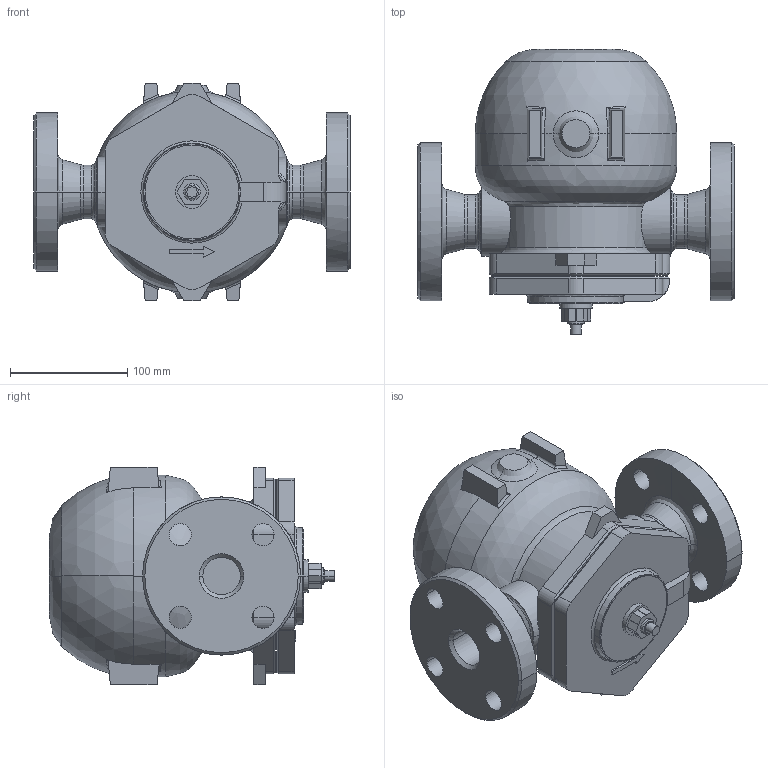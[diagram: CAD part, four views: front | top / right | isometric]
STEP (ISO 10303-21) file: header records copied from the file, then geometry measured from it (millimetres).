
FILE_DESCRIPTION( (''), '2;1');
FILE_NAME ('PC1027.14300.TSF-11F 32A(JIS 10K,20K)_4650.stp','2025-07-30T18:19:59',(''),(''),'spGate 20.6.3 (****-****-****-****)','','');
FILE_SCHEMA (('AUTOMOTIVE_DESIGN'));
Length unit declared in the file: millimetre
Products named in the file (2): Assembly; TSF-11F(JIS10K,20K) 32A
Assembly tree (1 placements, depth 2):
  Assembly
    TSF-11F(JIS10K,20K) 32A
Bounding box: 270 x 243.5 x 186 mm (x, y, z)
Volume: 4517443.6 mm3; surface area: 258569.3 mm2
Topology: 1 solids, 1 shells, 253 faces, 659 edges, 418 vertices
Faces by surface type: plane 97, bspline 81, cylinder 73, sphere 2
Entity records: 15355 total; most frequent: CARTESIAN_POINT 4481, ORIENTED_EDGE 1318, DIRECTION 1037, COLOUR_RGB 913, PRESENTATION_STYLE_ASSIGNMENT 913, STYLED_ITEM 913, EDGE_CURVE 659, DRAUGHTING_PRE_DEFINED_CURVE_FONT 659
